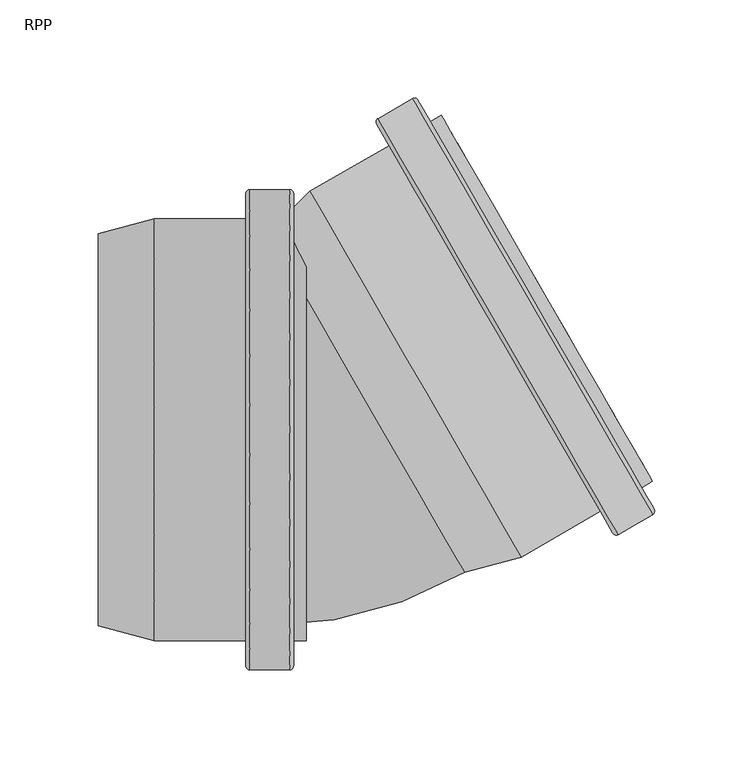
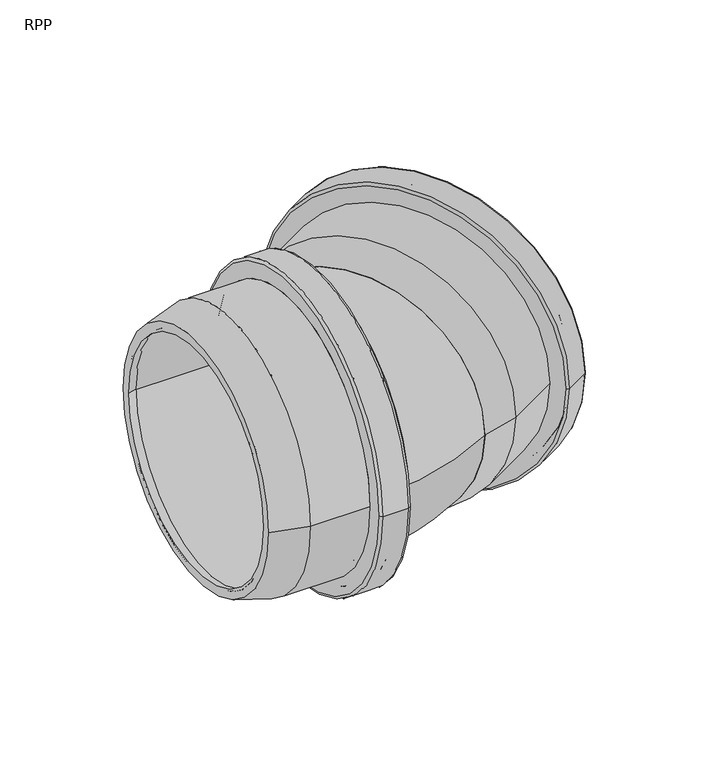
"""IFC4 building model written with IfcOpenShell, lengths in millimetres: pipe fitting geometry, RAUPIANO PLUS Bend : RPP."""

from ifc_helpers import new_model, si_unit, point, frame, origin, place, context, project, spatial, polyline, circle_curve, ellipse_curve, trimmed, source, transform, mapped, element, save
from ifc_brep_helpers import plane_surface, cylinder_surface, revolved_surface, advanced_brep


def rpp_016cef04(model_context):
    return source(origin(), model_context, "Body", "AdvancedBrep", [
        advanced_brep(
        [(-30.066716, -100.3, 0.0), (-30.066716, 100.3, 0.0), (-83.1556963, 100.3, 0.0), (-83.1556963, -100.3, 0.0), (-29.566716, -115.1, 0.0), (-29.566716, 115.1, 0.0), (-30.066716, 114.6, 0.0), (-30.066716, -114.6, 0.0), (-21.066716, -115.1, 0.0), (-21.066716, 115.1, 0.0), (-20.566716, -114.6, 0.0), (-20.566716, 114.6, 0.0), (-6.766716, -100.3, 0.0), (-6.766716, 100.3, 0.0), (-20.566716, 100.3, 0.0), (-20.566716, -100.3, 0.0), (-13.166716, -107.7, 0.0), (-13.166716, 107.7, 0.0), (-6.766716, 107.7, 0.0), (-6.766716, -107.7, 0.0), (-15.166716, -122.5, 0.0), (-15.166716, 122.5, 0.0), (-13.166716, 120.5, 0.0), (-13.166716, -120.5, 0.0), (-35.466716, -122.5, 0.0), (-35.466716, 122.5, 0.0), (-37.466716, -120.5, 0.0), (-37.466716, 120.5, 0.0), (-84.1299248, -107.7, 0.0), (-84.1299248, 107.7, 0.0), (-37.466716, 107.7, 0.0), (-37.466716, -107.7, 0.0), (-112.866716, -100.0, 0.0), (-112.866716, 100.0, 0.0), (-112.866716, 92.3389563, 0.0), (-112.866716, -92.3389563, 0.0)],
        [
            (0, 1, circle_curve(frame((-30.066716, 0.0, 0.0), z_axis=(1.0, 0.0, 0.0), x_axis=(0.0, 1.0, 0.0)), 100.3)),
            (1, 2),
            (2, 3, circle_curve(frame((-83.1556963, 0.0, 0.0), z_axis=(-1.0, 0.0, 0.0), x_axis=(0.0, 1.0, 0.0)), 100.3)),
            (3, 0),
            (4, 5, circle_curve(frame((-29.566716, 0.0, 0.0), z_axis=(1.0, 0.0, 0.0), x_axis=(0.0, 1.0, 0.0)), 115.1)),
            (5, 6, circle_curve(frame((-29.566716, 114.6, 0.0), z_axis=(0.0, 0.0, 1.0), x_axis=(0.0, -1.0, 0.0)), 0.5)),
            (6, 7, circle_curve(frame((-30.066716, 0.0, 0.0), z_axis=(-1.0, 0.0, 0.0), x_axis=(0.0, 1.0, 0.0)), 114.6)),
            (7, 4, circle_curve(frame((-29.566716, -114.6, 0.0), z_axis=(0.0, 0.0, 1.0), x_axis=(0.0, 1.0, 0.0)), 0.5)),
            (8, 9, circle_curve(frame((-21.066716, 0.0, 0.0), z_axis=(1.0, 0.0, 0.0), x_axis=(0.0, 1.0, 0.0)), 115.1)),
            (9, 5),
            (4, 8),
            (10, 11, circle_curve(frame((-20.566716, 0.0, 0.0), z_axis=(1.0, 0.0, 0.0), x_axis=(0.0, 1.0, 0.0)), 114.6)),
            (11, 9, circle_curve(frame((-21.066716, 114.6, 0.0), z_axis=(0.0, 0.0, 1.0), x_axis=(0.0, -1.0, 0.0)), 0.5)),
            (8, 10, circle_curve(frame((-21.066716, -114.6, 0.0), z_axis=(0.0, 0.0, 1.0), x_axis=(0.0, 1.0, 0.0)), 0.5)),
            (12, 13, circle_curve(frame((-6.766716, 0.0, 0.0), z_axis=(1.0, 0.0, 0.0), x_axis=(0.0, 1.0, 0.0)), 100.3)),
            (13, 14),
            (14, 15, circle_curve(frame((-20.566716, 0.0, 0.0), z_axis=(-1.0, 0.0, 0.0), x_axis=(0.0, 1.0, 0.0)), 100.3)),
            (15, 12),
            (16, 17, circle_curve(frame((-13.166716, 0.0, 0.0), z_axis=(1.0, 0.0, 0.0), x_axis=(0.0, 1.0, 0.0)), 107.7)),
            (17, 18),
            (18, 19, circle_curve(frame((-6.766716, 0.0, 0.0), z_axis=(-1.0, 0.0, 0.0), x_axis=(0.0, 1.0, 0.0)), 107.7)),
            (19, 16),
            (20, 21, circle_curve(frame((-15.166716, 0.0, 0.0), z_axis=(1.0, 0.0, 0.0), x_axis=(0.0, 1.0, 0.0)), 122.5)),
            (21, 22, circle_curve(frame((-15.166716, 120.5, 0.0), z_axis=(0.0, 0.0, -1.0), x_axis=(0.0, -1.0, 0.0)), 2.0)),
            (22, 23, circle_curve(frame((-13.166716, 0.0, 0.0), z_axis=(-1.0, 0.0, 0.0), x_axis=(0.0, 1.0, 0.0)), 120.5)),
            (23, 20, circle_curve(frame((-15.166716, -120.5, 0.0), z_axis=(0.0, 0.0, -1.0), x_axis=(0.0, 1.0, 0.0)), 2.0)),
            (24, 25, circle_curve(frame((-35.466716, 0.0, 0.0), z_axis=(1.0, 0.0, 0.0), x_axis=(0.0, 1.0, 0.0)), 122.5)),
            (25, 21),
            (20, 24),
            (26, 27, circle_curve(frame((-37.466716, 0.0, 0.0), z_axis=(1.0, 0.0, 0.0), x_axis=(0.0, 1.0, 0.0)), 120.5)),
            (27, 25, circle_curve(frame((-35.466716, 120.5, 0.0), z_axis=(0.0, 0.0, -1.0), x_axis=(0.0, -1.0, 0.0)), 2.0)),
            (24, 26, circle_curve(frame((-35.466716, -120.5, 0.0), z_axis=(0.0, 0.0, -1.0), x_axis=(0.0, 1.0, 0.0)), 2.0)),
            (28, 29, circle_curve(frame((-84.1299248, 0.0, 0.0), z_axis=(1.0, 0.0, 0.0), x_axis=(0.0, 1.0, 0.0)), 107.7)),
            (29, 30),
            (30, 31, circle_curve(frame((-37.466716, 0.0, 0.0), z_axis=(-1.0, 0.0, 0.0), x_axis=(0.0, 1.0, 0.0)), 107.7)),
            (31, 28),
            (32, 33, circle_curve(frame((-112.866716, 0.0, 0.0), z_axis=(1.0, 0.0, 0.0), x_axis=(0.0, 1.0, 0.0)), 100.0)),
            (33, 29),
            (28, 32),
            (2, 34),
            (34, 35, circle_curve(frame((-112.866716, 0.0, 0.0), z_axis=(-1.0, 0.0, 0.0), x_axis=(0.0, 1.0, 0.0)), 92.3389563)),
            (35, 3),
            (1, 0, circle_curve(frame((-30.066716, 0.0, 0.0), z_axis=(1.0, 0.0, 0.0), x_axis=(0.0, -1.0, 0.0)), 100.3)),
            (3, 2, circle_curve(frame((-83.1556963, 0.0, 0.0), z_axis=(-1.0, 0.0, 0.0), x_axis=(0.0, -1.0, 0.0)), 100.3)),
            (6, 7, circle_curve(frame((-30.066716, 0.0, 0.0), z_axis=(1.0, 0.0, 0.0), x_axis=(0.0, -1.0, 0.0)), 114.6)),
            (5, 4, circle_curve(frame((-29.566716, 0.0, 0.0), z_axis=(1.0, 0.0, 0.0), x_axis=(0.0, -1.0, 0.0)), 115.1)),
            (9, 8, circle_curve(frame((-21.066716, 0.0, 0.0), z_axis=(1.0, 0.0, 0.0), x_axis=(0.0, -1.0, 0.0)), 115.1)),
            (11, 10, circle_curve(frame((-20.566716, 0.0, 0.0), z_axis=(1.0, 0.0, 0.0), x_axis=(0.0, -1.0, 0.0)), 114.6)),
            (14, 15, circle_curve(frame((-20.566716, 0.0, 0.0), z_axis=(1.0, 0.0, 0.0), x_axis=(0.0, -1.0, 0.0)), 100.3)),
            (13, 12, circle_curve(frame((-6.766716, 0.0, 0.0), z_axis=(1.0, 0.0, 0.0), x_axis=(0.0, -1.0, 0.0)), 100.3)),
            (18, 19, circle_curve(frame((-6.766716, 0.0, 0.0), z_axis=(1.0, 0.0, 0.0), x_axis=(0.0, -1.0, 0.0)), 107.7)),
            (17, 16, circle_curve(frame((-13.166716, 0.0, 0.0), z_axis=(1.0, 0.0, 0.0), x_axis=(0.0, -1.0, 0.0)), 107.7)),
            (22, 23, circle_curve(frame((-13.166716, 0.0, 0.0), z_axis=(1.0, 0.0, 0.0), x_axis=(0.0, -1.0, 0.0)), 120.5)),
            (21, 20, circle_curve(frame((-15.166716, 0.0, 0.0), z_axis=(1.0, 0.0, 0.0), x_axis=(0.0, -1.0, 0.0)), 122.5)),
            (25, 24, circle_curve(frame((-35.466716, 0.0, 0.0), z_axis=(1.0, 0.0, 0.0), x_axis=(0.0, -1.0, 0.0)), 122.5)),
            (27, 26, circle_curve(frame((-37.466716, 0.0, 0.0), z_axis=(1.0, 0.0, 0.0), x_axis=(0.0, -1.0, 0.0)), 120.5)),
            (30, 31, circle_curve(frame((-37.466716, 0.0, 0.0), z_axis=(1.0, 0.0, 0.0), x_axis=(0.0, -1.0, 0.0)), 107.7)),
            (29, 28, circle_curve(frame((-84.1299248, 0.0, 0.0), z_axis=(1.0, 0.0, 0.0), x_axis=(0.0, -1.0, 0.0)), 107.7)),
            (33, 32, circle_curve(frame((-112.866716, 0.0, 0.0), z_axis=(1.0, 0.0, 0.0), x_axis=(0.0, -1.0, 0.0)), 100.0)),
            (34, 35, circle_curve(frame((-112.866716, 0.0, 0.0), z_axis=(1.0, 0.0, 0.0), x_axis=(0.0, -1.0, 0.0)), 92.3389563)),
        ],
        [
            revolved_surface(polyline([(-83.1556963, 100.3, 0.0), (-30.066716, 100.3, 0.0)]), (-112.866716, 0.0, 0.0), (-1.0, 0.0, 0.0)),
            revolved_surface(trimmed(ellipse_curve(frame((-29.566716, 114.6, 0.0), z_axis=(0.0, 0.0, -1.0), x_axis=(0.0, -1.0, 0.0)), 0.5, 0.5), [point((-30.066716, 114.6, 0.0))], [point((-29.566716, 115.1, 0.0))], True, "CARTESIAN"), (-112.866716, 0.0, 0.0), (-1.0, 0.0, 0.0)),
            revolved_surface(polyline([(-29.566716, 115.1, 0.0), (-21.066716, 115.1, 0.0)]), (-112.866716, 0.0, 0.0), (-1.0, 0.0, 0.0)),
            revolved_surface(trimmed(ellipse_curve(frame((-21.066716, 114.6, 0.0), z_axis=(0.0, 0.0, -1.0), x_axis=(0.0, -1.0, 0.0)), 0.5, 0.5), [point((-21.066716, 115.1, 0.0))], [point((-20.566716, 114.6, 0.0))], True, "CARTESIAN"), (-112.866716, 0.0, 0.0), (-1.0, 0.0, 0.0)),
            revolved_surface(polyline([(-20.566716, 100.3, 0.0), (-6.766716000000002, 100.3, 0.0)]), (-112.866716, 0.0, 0.0), (-1.0, 0.0, 0.0)),
            cylinder_surface(frame((-112.866716, 0.0, 0.0), z_axis=(-1.0, 0.0, 0.0), x_axis=(0.0, 1.0, 0.0)), 107.7),
            revolved_surface(trimmed(ellipse_curve(frame((-15.166716, 120.5, 0.0), z_axis=(0.0, 0.0, 1.0), x_axis=(0.0, -1.0, 0.0)), 2.0, 2.0), [point((-13.166716, 120.5, 0.0))], [point((-15.166716, 122.5, 0.0))], True, "CARTESIAN"), (-112.866716, 0.0, 0.0), (-1.0, 0.0, 0.0)),
            cylinder_surface(frame((-112.866716, 0.0, 0.0), z_axis=(-1.0, 0.0, 0.0), x_axis=(0.0, 1.0, 0.0)), 122.5),
            revolved_surface(trimmed(ellipse_curve(frame((-35.466716, 120.5, 0.0), z_axis=(0.0, 0.0, 1.0), x_axis=(0.0, -1.0, 0.0)), 2.0, 2.0), [point((-35.466716, 122.5, 0.0))], [point((-37.466716, 120.5, 0.0))], True, "CARTESIAN"), (-112.866716, 0.0, 0.0), (-1.0, 0.0, 0.0)),
            revolved_surface(polyline([(-84.1299248, 107.7, 0.0), (-112.866716, 100.0, 0.0)]), (-112.866716, 0.0, 0.0), (-1.0, 0.0, 0.0)),
            revolved_surface(polyline([(-112.866716, 92.3389563, 0.0), (-83.1556963, 100.3, 0.0)]), (-112.866716, 0.0, 0.0), (-1.0, 0.0, 0.0)),
            revolved_surface(polyline([(-83.1556963, -100.3, 0.0), (-30.066716, -100.3, 0.0)]), (-112.866716, 0.0, 0.0), (-1.0, 0.0, 0.0)),
            plane_surface(frame((-30.066716, 0.0, 0.0), z_axis=(1.0, 0.0, 0.0), x_axis=(0.0, -1.0, 0.0))),
            revolved_surface(trimmed(ellipse_curve(frame((-29.566716, -114.6, 0.0), z_axis=(0.0, 0.0, 1.0), x_axis=(0.0, 1.0, 0.0)), 0.5, 0.5), [point((-30.066716, -114.6, 0.0))], [point((-29.566716, -115.1, 0.0))], True, "CARTESIAN"), (-112.866716, 0.0, 0.0), (-1.0, 0.0, 0.0)),
            revolved_surface(polyline([(-29.566716, -115.1, 0.0), (-21.066716, -115.1, 0.0)]), (-112.866716, 0.0, 0.0), (-1.0, 0.0, 0.0)),
            revolved_surface(trimmed(ellipse_curve(frame((-21.066716, -114.6, 0.0), z_axis=(0.0, 0.0, 1.0), x_axis=(0.0, 1.0, 0.0)), 0.5, 0.5), [point((-21.066716, -115.1, 0.0))], [point((-20.566716, -114.6, 0.0))], True, "CARTESIAN"), (-112.866716, 0.0, 0.0), (-1.0, 0.0, 0.0)),
            plane_surface(frame((-20.566716, 0.0, 0.0), z_axis=(-1.0, 0.0, 0.0), x_axis=(0.0, -1.0, 0.0))),
            revolved_surface(polyline([(-20.566716, -100.3, 0.0), (-6.766716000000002, -100.3, 0.0)]), (-112.866716, 0.0, 0.0), (-1.0, 0.0, 0.0)),
            plane_surface(frame((-6.766716, 0.0, 0.0), z_axis=(1.0, 0.0, 0.0), x_axis=(0.0, -1.0, 0.0))),
            cylinder_surface(frame((-112.866716, 0.0, 0.0), z_axis=(-1.0, 0.0, 0.0), x_axis=(0.0, -1.0, 0.0)), 107.7),
            plane_surface(frame((-13.166716, 0.0, 0.0), z_axis=(1.0, 0.0, 0.0), x_axis=(0.0, -1.0, 0.0))),
            revolved_surface(trimmed(ellipse_curve(frame((-15.166716, -120.5, 0.0), z_axis=(0.0, 0.0, -1.0), x_axis=(0.0, 1.0, 0.0)), 2.0, 2.0), [point((-13.166716, -120.5, 0.0))], [point((-15.166716, -122.5, 0.0))], True, "CARTESIAN"), (-112.866716, 0.0, 0.0), (-1.0, 0.0, 0.0)),
            cylinder_surface(frame((-112.866716, 0.0, 0.0), z_axis=(-1.0, 0.0, 0.0), x_axis=(0.0, -1.0, 0.0)), 122.5),
            revolved_surface(trimmed(ellipse_curve(frame((-35.466716, -120.5, 0.0), z_axis=(0.0, 0.0, -1.0), x_axis=(0.0, 1.0, 0.0)), 2.0, 2.0), [point((-35.466716, -122.5, 0.0))], [point((-37.466716, -120.5, 0.0))], True, "CARTESIAN"), (-112.866716, 0.0, 0.0), (-1.0, 0.0, 0.0)),
            plane_surface(frame((-37.466716, 0.0, 0.0), z_axis=(-1.0, 0.0, 0.0), x_axis=(0.0, -1.0, 0.0))),
            revolved_surface(polyline([(-84.1299248, -107.7, 0.0), (-112.866716, -100.0, 0.0)]), (-112.866716, 0.0, 0.0), (-1.0, 0.0, 0.0)),
            plane_surface(frame((-112.866716, 0.0, 0.0), z_axis=(-1.0, 0.0, 0.0), x_axis=(0.0, -1.0, 0.0))),
            revolved_surface(polyline([(-112.866716, -92.3389563, 0.0), (-83.1556963, -100.3, 0.0)]), (-112.866716, 0.0, 0.0), (-1.0, 0.0, 0.0)),
        ],
        [
            (0, [[1, 2, 3, 4]]),
            (1, [[5, 6, 7, 8]]),
            (2, [[9, 10, -5, 11]]),
            (3, [[12, 13, -9, 14]]),
            (4, [[15, 16, 17, 18]]),
            (5, [[19, 20, 21, 22]]),
            (6, [[23, 24, 25, 26]]),
            (7, [[27, 28, -23, 29]]),
            (8, [[30, 31, -27, 32]]),
            (5, [[33, 34, 35, 36]]),
            (9, [[37, 38, -33, 39]]),
            (10, [[-3, 40, 41, 42]]),
            (11, [[43, -4, 44, -2]]),
            (12, [[45, -7], [-43, -1]]),
            (13, [[46, -8, -45, -6]]),
            (14, [[47, -11, -46, -10]]),
            (15, [[48, -14, -47, -13]]),
            (16, [[-48, -12], [49, -17]]),
            (17, [[50, -18, -49, -16]]),
            (18, [[51, -21], [-50, -15]]),
            (19, [[52, -22, -51, -20]]),
            (20, [[53, -25], [-52, -19]]),
            (21, [[54, -26, -53, -24]]),
            (22, [[55, -29, -54, -28]]),
            (23, [[56, -32, -55, -31]]),
            (24, [[-56, -30], [57, -35]]),
            (19, [[58, -36, -57, -34]]),
            (25, [[59, -39, -58, -38]]),
            (26, [[-59, -37], [60, -41]]),
            (27, [[-44, -42, -60, -40]]),
        ],
    ),
        advanced_brep(
        [(70.3027621, -66.0345239, 0.0), (-22.0361941, 93.9012399, 0.0), (-0.2862182, 115.6512159, 0.0), (100.0137818, -58.0734801, 0.0), (102.8700752, -64.9691824, 0.0), (-4.8299248, 121.5726896, 0.0), (-25.866716, 100.5358984, 0.0), (74.133284, -72.6691824, 0.0), (143.2815994, -41.637578, 0.0), (35.5815994, 144.904294, 0.0), (169.9939659, -43.304754, 0.0), (47.4939659, 168.87147, 0.0), (29.9136502, 158.72147, 0.0), (152.4136502, -53.454754, 0.0), (169.8685793, -26.287578, 0.0), (62.1685793, 160.254294, 0.0), (56.6260167, 157.054294, 0.0), (164.3260167, -29.487578, 0.0), (154.2174288, -26.77899, 0.0), (53.9174288, 146.945706, 0.0), (65.8685793, 153.845706, 0.0), (166.1685793, -19.87899, 0.0), (153.8232001, -44.096166, 0.0), (38.7232001, 155.262882, 0.0), (46.0844161, 159.512882, 0.0), (161.1844161, -39.846166, 0.0), (45.6901874, 142.195706, 0.0), (145.9901874, -31.52899, 0.0), (29.1815994, 155.9894192, 0.0), (149.6815994, -52.7227031, 0.0), (170.7260167, -40.5727031, 0.0), (50.2260167, 168.1394192, 0.0), (46.7674288, 159.3298693, 0.0), (161.3674288, -39.1631533, 0.0), (153.1401874, -43.9131533, 0.0), (38.5401874, 154.5798693, 0.0)],
        [
            (0, 1, circle_curve(frame((24.133284, 13.933358, 0.0), z_axis=(-0.8660254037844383, -0.5000000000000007, 0.0), x_axis=(-0.5000000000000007, 0.8660254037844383, 0.0)), 92.3389563)),
            (1, 2),
            (2, 3, circle_curve(frame((49.8637818, 28.7888679, 0.0), z_axis=(0.8660254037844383, 0.5000000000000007, 0.0), x_axis=(-0.5000000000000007, 0.8660254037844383, 0.0)), 100.3)),
            (3, 0),
            (4, 5, circle_curve(frame((49.0200752, 28.3017536, 0.0), z_axis=(-0.8660254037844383, -0.5000000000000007, 0.0), x_axis=(-0.5000000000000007, 0.8660254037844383, 0.0)), 107.7)),
            (5, 6),
            (6, 7, circle_curve(frame((24.133284, 13.933358, 0.0), z_axis=(0.8660254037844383, 0.5000000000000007, 0.0), x_axis=(-0.5000000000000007, 0.8660254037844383, 0.0)), 100.0)),
            (7, 4),
            (8, 9, circle_curve(frame((89.4315994, 51.633358, 0.0), z_axis=(-0.8660254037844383, -0.5000000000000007, 0.0), x_axis=(-0.5000000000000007, 0.8660254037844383, 0.0)), 107.7)),
            (9, 5),
            (4, 8),
            (10, 11, circle_curve(frame((108.7439659, 62.783358, 0.0), z_axis=(-0.8660254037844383, -0.5000000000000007, 0.0), x_axis=(-0.5000000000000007, 0.8660254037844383, 0.0)), 122.5)),
            (11, 12),
            (12, 13, circle_curve(frame((91.1636502, 52.633358, 0.0), z_axis=(0.8660254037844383, 0.5000000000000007, 0.0), x_axis=(-0.5000000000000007, 0.8660254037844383, 0.0)), 122.5)),
            (13, 10),
            (14, 15, circle_curve(frame((116.0185793, 66.983358, 0.0), z_axis=(-0.8660254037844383, -0.5000000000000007, 0.0), x_axis=(-0.5000000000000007, 0.8660254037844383, 0.0)), 107.7)),
            (15, 16),
            (16, 17, circle_curve(frame((110.4760167, 63.783358, 0.0), z_axis=(0.8660254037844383, 0.5000000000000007, 0.0), x_axis=(-0.5000000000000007, 0.8660254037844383, 0.0)), 107.7)),
            (17, 14),
            (18, 19, circle_curve(frame((104.0674288, 60.083358, 0.0), z_axis=(-0.8660254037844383, -0.5000000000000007, 0.0), x_axis=(-0.5000000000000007, 0.8660254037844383, 0.0)), 100.3)),
            (19, 20),
            (20, 21, circle_curve(frame((116.0185793, 66.983358, 0.0), z_axis=(0.8660254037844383, 0.5000000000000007, 0.0), x_axis=(-0.5000000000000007, 0.8660254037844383, 0.0)), 100.3)),
            (21, 18),
            (22, 23, circle_curve(frame((96.2732001, 55.583358, 0.0), z_axis=(-0.8660254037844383, -0.5000000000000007, 0.0), x_axis=(-0.5000000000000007, 0.8660254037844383, 0.0)), 115.1)),
            (23, 24),
            (24, 25, circle_curve(frame((103.6344161, 59.833358, 0.0), z_axis=(0.8660254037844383, 0.5000000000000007, 0.0), x_axis=(-0.5000000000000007, 0.8660254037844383, 0.0)), 115.1)),
            (25, 22),
            (2, 26),
            (26, 27, circle_curve(frame((95.8401874, 55.333358, 0.0), z_axis=(0.8660254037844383, 0.5000000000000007, 0.0), x_axis=(-0.5000000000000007, 0.8660254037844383, 0.0)), 100.3)),
            (27, 3),
            (1, 0, circle_curve(frame((24.133284, 13.933358, 0.0), z_axis=(-0.8660254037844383, -0.5000000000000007, 0.0), x_axis=(0.5000000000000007, -0.8660254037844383, 0.0)), 92.3389563)),
            (3, 2, circle_curve(frame((49.8637818, 28.7888679, 0.0), z_axis=(0.8660254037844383, 0.5000000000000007, 0.0), x_axis=(0.5000000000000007, -0.8660254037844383, 0.0)), 100.3)),
            (6, 7, circle_curve(frame((24.133284, 13.933358, 0.0), z_axis=(-0.8660254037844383, -0.5000000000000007, 0.0), x_axis=(0.5000000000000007, -0.8660254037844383, 0.0)), 100.0)),
            (5, 4, circle_curve(frame((49.0200752, 28.3017536, 0.0), z_axis=(-0.8660254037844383, -0.5000000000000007, 0.0), x_axis=(0.5000000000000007, -0.8660254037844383, 0.0)), 107.7)),
            (9, 8, circle_curve(frame((89.4315994, 51.633358, 0.0), z_axis=(-0.8660254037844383, -0.5000000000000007, 0.0), x_axis=(0.5000000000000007, -0.8660254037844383, 0.0)), 107.7)),
            (28, 29, circle_curve(frame((89.4315994, 51.633358, 0.0), z_axis=(-0.8660254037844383, -0.5000000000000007, 0.0), x_axis=(0.5000000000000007, -0.8660254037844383, 0.0)), 120.5)),
            (29, 28, circle_curve(frame((89.4315994, 51.633358, 0.0), z_axis=(-0.8660254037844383, -0.5000000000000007, 0.0), x_axis=(-0.5000000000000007, 0.8660254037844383, 0.0)), 120.5)),
            (11, 10, circle_curve(frame((108.7439659, 62.783358, 0.0), z_axis=(-0.8660254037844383, -0.5000000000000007, 0.0), x_axis=(0.5000000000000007, -0.8660254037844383, 0.0)), 122.5)),
            (13, 12, circle_curve(frame((91.1636502, 52.633358, 0.0), z_axis=(0.8660254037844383, 0.5000000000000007, 0.0), x_axis=(0.5000000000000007, -0.8660254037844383, 0.0)), 122.5)),
            (30, 31, circle_curve(frame((110.4760167, 63.783358, 0.0), z_axis=(0.8660254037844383, 0.5000000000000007, 0.0), x_axis=(0.5000000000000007, -0.8660254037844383, 0.0)), 120.5)),
            (31, 30, circle_curve(frame((110.4760167, 63.783358, 0.0), z_axis=(0.8660254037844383, 0.5000000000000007, 0.0), x_axis=(-0.5000000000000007, 0.8660254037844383, 0.0)), 120.5)),
            (16, 17, circle_curve(frame((110.4760167, 63.783358, 0.0), z_axis=(-0.8660254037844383, -0.5000000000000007, 0.0), x_axis=(0.5000000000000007, -0.8660254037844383, 0.0)), 107.7)),
            (15, 14, circle_curve(frame((116.0185793, 66.983358, 0.0), z_axis=(-0.8660254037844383, -0.5000000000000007, 0.0), x_axis=(0.5000000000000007, -0.8660254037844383, 0.0)), 107.7)),
            (20, 21, circle_curve(frame((116.0185793, 66.983358, 0.0), z_axis=(-0.8660254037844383, -0.5000000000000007, 0.0), x_axis=(0.5000000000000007, -0.8660254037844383, 0.0)), 100.3)),
            (19, 18, circle_curve(frame((104.0674288, 60.083358, 0.0), z_axis=(-0.8660254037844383, -0.5000000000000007, 0.0), x_axis=(0.5000000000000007, -0.8660254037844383, 0.0)), 100.3)),
            (32, 33, circle_curve(frame((104.0674288, 60.083358, 0.0), z_axis=(-0.8660254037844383, -0.5000000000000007, 0.0), x_axis=(0.5000000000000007, -0.8660254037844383, 0.0)), 114.6)),
            (33, 32, circle_curve(frame((104.0674288, 60.083358, 0.0), z_axis=(-0.8660254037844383, -0.5000000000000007, 0.0), x_axis=(-0.5000000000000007, 0.8660254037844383, 0.0)), 114.6)),
            (23, 22, circle_curve(frame((96.2732001, 55.583358, 0.0), z_axis=(-0.8660254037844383, -0.5000000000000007, 0.0), x_axis=(0.5000000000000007, -0.8660254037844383, 0.0)), 115.1)),
            (25, 24, circle_curve(frame((103.6344161, 59.833358, 0.0), z_axis=(0.8660254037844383, 0.5000000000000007, 0.0), x_axis=(0.5000000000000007, -0.8660254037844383, 0.0)), 115.1)),
            (34, 35, circle_curve(frame((95.8401874, 55.333358, 0.0), z_axis=(0.8660254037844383, 0.5000000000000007, 0.0), x_axis=(0.5000000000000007, -0.8660254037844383, 0.0)), 114.6)),
            (35, 34, circle_curve(frame((95.8401874, 55.333358, 0.0), z_axis=(0.8660254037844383, 0.5000000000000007, 0.0), x_axis=(-0.5000000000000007, 0.8660254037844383, 0.0)), 114.6)),
            (26, 27, circle_curve(frame((95.8401874, 55.333358, 0.0), z_axis=(-0.8660254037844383, -0.5000000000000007, 0.0), x_axis=(0.5000000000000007, -0.8660254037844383, 0.0)), 100.3)),
            (12, 28, circle_curve(frame((30.9136502, 156.9894192, 0.0), z_axis=(0.0, 0.0, 1.0), x_axis=(0.5000000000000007, -0.8660254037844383, 0.0)), 2.0)),
            (29, 13, circle_curve(frame((151.4136502, -51.7227031, 0.0), z_axis=(0.0, 0.0, 1.0), x_axis=(-0.5000000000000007, 0.8660254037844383, 0.0)), 2.0)),
            (31, 11, circle_curve(frame((48.4939659, 167.1394192, 0.0), z_axis=(0.0, 0.0, 1.0), x_axis=(0.5000000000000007, -0.8660254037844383, 0.0)), 2.0)),
            (10, 30, circle_curve(frame((168.9939659, -41.5727031, 0.0), z_axis=(0.0, 0.0, 1.0), x_axis=(-0.5000000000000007, 0.8660254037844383, 0.0)), 2.0)),
            (24, 32, circle_curve(frame((46.3344161, 159.0798693, 0.0), z_axis=(0.0, 0.0, -1.0), x_axis=(0.5000000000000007, -0.8660254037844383, 0.0)), 0.5)),
            (33, 25, circle_curve(frame((160.9344161, -39.4131533, 0.0), z_axis=(0.0, 0.0, -1.0), x_axis=(-0.5000000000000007, 0.8660254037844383, 0.0)), 0.5)),
            (35, 23, circle_curve(frame((38.9732001, 154.8298693, 0.0), z_axis=(0.0, 0.0, -1.0), x_axis=(0.5000000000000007, -0.8660254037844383, 0.0)), 0.5)),
            (22, 34, circle_curve(frame((153.5732001, -43.6631533, 0.0), z_axis=(0.0, 0.0, -1.0), x_axis=(-0.5000000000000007, 0.8660254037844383, 0.0)), 0.5)),
        ],
        [
            revolved_surface(polyline([(-0.2862182, 115.6512159, 0.0), (-22.0361941, 93.9012399, 0.0)]), (24.133284, 13.933358, 0.0), (0.8660254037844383, 0.5000000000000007, 0.0)),
            revolved_surface(polyline([(-25.866716, 100.5358984, 0.0), (-4.8299248, 121.5726896, 0.0)]), (24.133284, 13.933358, 0.0), (0.8660254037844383, 0.5000000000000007, 0.0)),
            cylinder_surface(frame((24.133284, 13.933358, 0.0), z_axis=(0.8660254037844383, 0.5000000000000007, 0.0), x_axis=(-0.5000000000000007, 0.8660254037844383, 0.0)), 107.7),
            cylinder_surface(frame((24.133284, 13.933358, 0.0), z_axis=(0.8660254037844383, 0.5000000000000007, 0.0), x_axis=(-0.5000000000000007, 0.8660254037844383, 0.0)), 122.5),
            revolved_surface(polyline([(65.86857931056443, 153.8457059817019, 0.0), (53.91742879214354, 146.94570601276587, 0.0)]), (24.133284, 13.933358, 0.0), (0.8660254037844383, 0.5000000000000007, 0.0)),
            revolved_surface(polyline([(46.08441610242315, 159.51288199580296, 0.0), (38.72320009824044, 155.2628819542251, 0.0)]), (24.133284, 13.933358, 0.0), (0.8660254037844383, 0.5000000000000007, 0.0)),
            revolved_surface(polyline([(45.690187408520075, 142.19570598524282, 0.0), (-0.2862181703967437, 115.65121584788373, 0.0)]), (24.133284, 13.933358, 0.0), (0.8660254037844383, 0.5000000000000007, 0.0)),
            revolved_surface(polyline([(100.0137818, -58.0734801, 0.0), (70.3027621, -66.0345239, 0.0)]), (24.133284, 13.933358, 0.0), (0.8660254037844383, 0.5000000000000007, 0.0)),
            plane_surface(frame((24.133284, 13.933358, 0.0), z_axis=(-0.8660254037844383, -0.5000000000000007, 0.0), x_axis=(0.5000000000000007, -0.8660254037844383, 0.0))),
            revolved_surface(polyline([(74.133284, -72.6691824, 0.0), (102.8700752, -64.9691824, 0.0)]), (24.133284, 13.933358, 0.0), (0.8660254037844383, 0.5000000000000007, 0.0)),
            cylinder_surface(frame((24.133284, 13.933358, 0.0), z_axis=(0.8660254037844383, 0.5000000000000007, 0.0), x_axis=(0.5000000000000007, -0.8660254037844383, 0.0)), 107.7),
            plane_surface(frame((89.4315994, 51.633358, 0.0), z_axis=(-0.8660254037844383, -0.5000000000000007, 0.0), x_axis=(0.5000000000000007, -0.8660254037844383, 0.0))),
            cylinder_surface(frame((24.133284, 13.933358, 0.0), z_axis=(0.8660254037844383, 0.5000000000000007, 0.0), x_axis=(0.5000000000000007, -0.8660254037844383, 0.0)), 122.5),
            plane_surface(frame((110.4760167, 63.783358, 0.0), z_axis=(0.8660254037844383, 0.5000000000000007, 0.0), x_axis=(0.5000000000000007, -0.8660254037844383, 0.0))),
            plane_surface(frame((116.0185793, 66.983358, 0.0), z_axis=(0.8660254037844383, 0.5000000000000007, 0.0), x_axis=(0.5000000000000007, -0.8660254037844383, 0.0))),
            revolved_surface(polyline([(166.16857931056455, -19.878990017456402, 0.0), (154.21742879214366, -26.778989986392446, 0.0)]), (24.133284, 13.933358, 0.0), (0.8660254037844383, 0.5000000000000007, 0.0)),
            plane_surface(frame((104.0674288, 60.083358, 0.0), z_axis=(-0.8660254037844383, -0.5000000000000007, 0.0), x_axis=(0.5000000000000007, -0.8660254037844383, 0.0))),
            revolved_surface(polyline([(161.1844161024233, -39.84616595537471, 0.0), (153.8232000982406, -44.096165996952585, 0.0)]), (24.133284, 13.933358, 0.0), (0.8660254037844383, 0.5000000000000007, 0.0)),
            plane_surface(frame((95.8401874, 55.333358, 0.0), z_axis=(0.8660254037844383, 0.5000000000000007, 0.0), x_axis=(0.5000000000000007, -0.8660254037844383, 0.0))),
            revolved_surface(polyline([(145.9901874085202, -31.52899001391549, 0.0), (100.01378182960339, -58.07348015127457, 0.0)]), (24.133284, 13.933358, 0.0), (0.8660254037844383, 0.5000000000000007, 0.0)),
            revolved_surface(trimmed(ellipse_curve(frame((30.9136502, 156.9894192, 0.0), z_axis=(0.0, 0.0, -1.0), x_axis=(0.5000000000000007, -0.8660254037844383, 0.0)), 2.0, 2.0), [point((29.1815994, 155.9894192, 0.0))], [point((29.9136502, 158.72147, 0.0))], True, "CARTESIAN"), (24.133284, 13.933358, 0.0), (0.8660254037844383, 0.5000000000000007, 0.0)),
            revolved_surface(trimmed(ellipse_curve(frame((48.4939659, 167.1394192, 0.0), z_axis=(0.0, 0.0, -1.0), x_axis=(0.5000000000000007, -0.8660254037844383, 0.0)), 2.0, 2.0), [point((47.4939659, 168.87147, 0.0))], [point((50.2260167, 168.1394192, 0.0))], True, "CARTESIAN"), (24.133284, 13.933358, 0.0), (0.8660254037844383, 0.5000000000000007, 0.0)),
            revolved_surface(trimmed(ellipse_curve(frame((46.3344161, 159.0798693, 0.0), z_axis=(0.0, 0.0, 1.0), x_axis=(0.5000000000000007, -0.8660254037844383, 0.0)), 0.5, 0.5), [point((46.7674288, 159.3298693, 0.0))], [point((46.0844161, 159.512882, 0.0))], True, "CARTESIAN"), (24.133284, 13.933358, 0.0), (0.8660254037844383, 0.5000000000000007, 0.0)),
            revolved_surface(trimmed(ellipse_curve(frame((38.9732001, 154.8298693, 0.0), z_axis=(0.0, 0.0, 1.0), x_axis=(0.5000000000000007, -0.8660254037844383, 0.0)), 0.5, 0.5), [point((38.7232001, 155.262882, 0.0))], [point((38.5401874, 154.5798693, 0.0))], True, "CARTESIAN"), (24.133284, 13.933358, 0.0), (0.8660254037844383, 0.5000000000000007, 0.0)),
            revolved_surface(trimmed(ellipse_curve(frame((151.4136502, -51.7227031, 0.0), z_axis=(0.0, 0.0, 1.0), x_axis=(-0.5000000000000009, 0.8660254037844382, 0.0)), 2.0, 2.0), [point((149.6815994, -52.7227031, 0.0))], [point((152.4136502, -53.454754, 0.0))], True, "CARTESIAN"), (24.133284, 13.933358, 0.0), (0.8660254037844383, 0.5000000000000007, 0.0)),
            revolved_surface(trimmed(ellipse_curve(frame((168.9939659, -41.5727031, 0.0), z_axis=(0.0, 0.0, 1.0), x_axis=(-0.5000000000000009, 0.8660254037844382, 0.0)), 2.0, 2.0), [point((169.9939659, -43.304754, 0.0))], [point((170.7260167, -40.5727031, 0.0))], True, "CARTESIAN"), (24.133284, 13.933358, 0.0), (0.8660254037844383, 0.5000000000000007, 0.0)),
            revolved_surface(trimmed(ellipse_curve(frame((160.9344161, -39.4131533, 0.0), z_axis=(0.0, 0.0, -1.0), x_axis=(-0.5000000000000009, 0.8660254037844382, 0.0)), 0.5, 0.5), [point((161.3674288, -39.1631533, 0.0))], [point((161.1844161, -39.846166, 0.0))], True, "CARTESIAN"), (24.133284, 13.933358, 0.0), (0.8660254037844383, 0.5000000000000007, 0.0)),
            revolved_surface(trimmed(ellipse_curve(frame((153.5732001, -43.6631533, 0.0), z_axis=(0.0, 0.0, -1.0), x_axis=(-0.5000000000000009, 0.8660254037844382, 0.0)), 0.5, 0.5), [point((153.8232001, -44.096166, 0.0))], [point((153.1401874, -43.9131533, 0.0))], True, "CARTESIAN"), (24.133284, 13.933358, 0.0), (0.8660254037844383, 0.5000000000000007, 0.0)),
        ],
        [
            (0, [[1, 2, 3, 4]]),
            (1, [[5, 6, 7, 8]]),
            (2, [[9, 10, -5, 11]]),
            (3, [[12, 13, 14, 15]]),
            (2, [[16, 17, 18, 19]]),
            (4, [[20, 21, 22, 23]]),
            (5, [[24, 25, 26, 27]]),
            (6, [[-3, 28, 29, 30]]),
            (7, [[31, -4, 32, -2]]),
            (8, [[33, -7], [-31, -1]]),
            (9, [[34, -8, -33, -6]]),
            (10, [[35, -11, -34, -10]]),
            (11, [[36, 37], [-35, -9]]),
            (12, [[38, -15, 39, -13]]),
            (13, [[40, 41], [42, -18]]),
            (10, [[43, -19, -42, -17]]),
            (14, [[-43, -16], [44, -22]]),
            (15, [[45, -23, -44, -21]]),
            (16, [[46, 47], [-45, -20]]),
            (17, [[48, -27, 49, -25]]),
            (18, [[50, 51], [52, -29]]),
            (19, [[-32, -30, -52, -28]]),
            (20, [[-14, 53, -37, 54]]),
            (21, [[-41, 55, -12, 56]]),
            (22, [[-26, 57, -47, 58]]),
            (23, [[-51, 59, -24, 60]]),
            (24, [[-39, -54, -36, -53]]),
            (25, [[-40, -56, -38, -55]]),
            (26, [[-49, -58, -46, -57]]),
            (27, [[-50, -60, -48, -59]]),
        ],
    ),
        advanced_brep(
        [(-27.866716, 93.8, 0.0), (-27.866716, -93.8, 0.0), (-112.866716, -93.8, 0.0), (-112.866716, 93.8, 0.0), (-92.7136417, 100.0, 0.0), (-92.7136417, -100.0, 0.0), (-27.866716, -100.0, 0.0), (-27.866716, 100.0, 0.0), (-112.866716, 94.6, 0.0), (-112.866716, -94.6, 0.0)],
        [
            (0, 1, circle_curve(frame((-27.866716, 0.0, 0.0), z_axis=(1.0, 0.0, 0.0), x_axis=(0.0, -1.0, 0.0)), 93.8)),
            (1, 2),
            (2, 3, circle_curve(frame((-112.866716, 0.0, 0.0), z_axis=(-1.0, 0.0, 0.0), x_axis=(0.0, -1.0, 0.0)), 93.8)),
            (3, 0),
            (4, 5, circle_curve(frame((-92.7136417, 0.0, 0.0), z_axis=(1.0, 0.0, 0.0), x_axis=(0.0, -1.0, 0.0)), 100.0)),
            (5, 6),
            (6, 7, circle_curve(frame((-27.866716, 0.0, 0.0), z_axis=(-1.0, 0.0, 0.0), x_axis=(0.0, -1.0, 0.0)), 100.0)),
            (7, 4),
            (8, 9, circle_curve(frame((-112.866716, 0.0, 0.0), z_axis=(1.0, 0.0, 0.0), x_axis=(0.0, -1.0, 0.0)), 94.6)),
            (9, 5),
            (4, 8),
            (1, 0, circle_curve(frame((-27.866716, 0.0, 0.0), z_axis=(1.0, 0.0, 0.0), x_axis=(0.0, 1.0, 0.0)), 93.8)),
            (3, 2, circle_curve(frame((-112.866716, 0.0, 0.0), z_axis=(-1.0, 0.0, 0.0), x_axis=(0.0, 1.0, 0.0)), 93.8)),
            (6, 7, circle_curve(frame((-27.866716, 0.0, 0.0), z_axis=(1.0, 0.0, 0.0), x_axis=(0.0, 1.0, 0.0)), 100.0)),
            (5, 4, circle_curve(frame((-92.7136417, 0.0, 0.0), z_axis=(1.0, 0.0, 0.0), x_axis=(0.0, 1.0, 0.0)), 100.0)),
            (9, 8, circle_curve(frame((-112.866716, 0.0, 0.0), z_axis=(1.0, 0.0, 0.0), x_axis=(0.0, 1.0, 0.0)), 94.6)),
        ],
        [
            revolved_surface(polyline([(-112.866716, -93.8, 0.0), (-27.866716, -93.8, 0.0)]), (-27.866716, 0.0, 0.0), (-1.0, 0.0, 0.0)),
            cylinder_surface(frame((-27.866716, 0.0, 0.0), z_axis=(-1.0, 0.0, 0.0), x_axis=(0.0, -1.0, 0.0)), 100.0),
            revolved_surface(polyline([(-92.7136417, -100.0, 0.0), (-112.866716, -94.6, 0.0)]), (-27.866716, 0.0, 0.0), (-1.0, 0.0, 0.0)),
            revolved_surface(polyline([(-112.866716, 93.8, 0.0), (-27.866716, 93.8, 0.0)]), (-27.866716, 0.0, 0.0), (-1.0, 0.0, 0.0)),
            plane_surface(frame((-27.866716, 0.0, 0.0), z_axis=(1.0, 0.0, 0.0), x_axis=(0.0, 1.0, 0.0))),
            cylinder_surface(frame((-27.866716, 0.0, 0.0), z_axis=(-1.0, 0.0, 0.0), x_axis=(0.0, 1.0, 0.0)), 100.0),
            revolved_surface(polyline([(-92.7136417, 100.0, 0.0), (-112.866716, 94.6, 0.0)]), (-27.866716, 0.0, 0.0), (-1.0, 0.0, 0.0)),
            plane_surface(frame((-112.866716, 0.0, 0.0), z_axis=(-1.0, 0.0, 0.0), x_axis=(0.0, 1.0, 0.0))),
        ],
        [
            (0, [[1, 2, 3, 4]]),
            (1, [[5, 6, 7, 8]]),
            (2, [[9, 10, -5, 11]]),
            (3, [[12, -4, 13, -2]]),
            (4, [[14, -7], [-12, -1]]),
            (5, [[15, -8, -14, -6]]),
            (6, [[16, -11, -15, -10]]),
            (7, [[-16, -9], [-13, -3]]),
        ],
    ),
        advanced_brep(
        [(-27.866716, -100.0, 0.0), (-27.866716, 100.0, 0.0), (-27.866716, -93.8, 0.0), (-27.866716, 93.8, 0.0), (74.133284, -72.6691824, 0.0), (-25.866716, 100.5358984, 0.0), (71.033284, -67.2998249, 0.0), (-22.766716, 95.1665409, 0.0)],
        [
            (0, 1, circle_curve(frame((-27.866716, 0.0, 0.0), z_axis=(-1.0, 0.0, 0.0), x_axis=(0.0, 1.0, 0.0)), 100.0)),
            (1, 0, circle_curve(frame((-27.866716, 0.0, 0.0), z_axis=(-1.0, 0.0, 0.0), x_axis=(0.0, 1.0, 0.0)), 100.0)),
            (2, 3, circle_curve(frame((-27.866716, 0.0, 0.0), z_axis=(1.0, 0.0, 0.0), x_axis=(0.0, 1.0, 0.0)), 93.8)),
            (3, 2, circle_curve(frame((-27.866716, 0.0, 0.0), z_axis=(1.0, 0.0, 0.0), x_axis=(0.0, 1.0, 0.0)), 93.8)),
            (4, 5, circle_curve(frame((24.133284, 13.933358, 0.0), z_axis=(0.8660254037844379, 0.5000000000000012, 0.0), x_axis=(-0.5000000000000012, 0.8660254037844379, 0.0)), 100.0)),
            (5, 4, circle_curve(frame((24.133284, 13.933358, 0.0), z_axis=(0.8660254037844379, 0.5000000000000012, 0.0), x_axis=(-0.5000000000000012, 0.8660254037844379, 0.0)), 100.0)),
            (6, 7, circle_curve(frame((24.133284, 13.933358, 0.0), z_axis=(-0.8660254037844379, -0.5000000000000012, 0.0), x_axis=(-0.5000000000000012, 0.8660254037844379, 0.0)), 93.8)),
            (7, 6, circle_curve(frame((24.133284, 13.933358, 0.0), z_axis=(-0.8660254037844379, -0.5000000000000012, 0.0), x_axis=(-0.5000000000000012, 0.8660254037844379, 0.0)), 93.8)),
            (7, 3, circle_curve(frame((-27.866716, 104.0, 0.0), z_axis=(0.0, 0.0, -1.0), x_axis=(0.0, -1.0, 0.0)), 10.2)),
            (2, 6, circle_curve(frame((-27.866716, 104.0, 0.0), z_axis=(0.0, 0.0, 1.0), x_axis=(0.0, -1.0, 0.0)), 197.8)),
            (5, 1, circle_curve(frame((-27.866716, 104.0, 0.0), z_axis=(0.0, 0.0, -1.0), x_axis=(0.0, -1.0, 0.0)), 4.0)),
            (0, 4, circle_curve(frame((-27.866716, 104.0, 0.0), z_axis=(0.0, 0.0, 1.0), x_axis=(0.0, -1.0, 0.0)), 204.0)),
        ],
        [
            plane_surface(frame((-27.866716, 0.0, 0.0), z_axis=(-1.0, 0.0, 0.0), x_axis=(0.0, 0.0, 1.0))),
            plane_surface(frame((24.133284, 13.933358, 0.0), z_axis=(0.866025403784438, 0.5000000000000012, 0.0), x_axis=(0.0, 0.0, 1.0))),
            revolved_surface(trimmed(ellipse_curve(frame((-27.866716, 0.0, 0.0), z_axis=(1.0, 0.0, 0.0), x_axis=(0.0, 1.0, 0.0)), 93.8, 93.8), [point((-27.866716, -93.8, 0.0))], [point((-27.866716, 93.8, 0.0))], True, "CARTESIAN"), (-27.866716, 104.0, 0.0), (0.0, 0.0, 1.0)),
            revolved_surface(trimmed(ellipse_curve(frame((-27.866716, 0.0, 0.0), z_axis=(1.0, 0.0, 0.0), x_axis=(0.0, 1.0, 0.0)), 93.8, 93.8), [point((-27.866716, 93.8, 0.0))], [point((-27.866716, -93.8, 0.0))], True, "CARTESIAN"), (-27.866716, 104.0, 0.0), (0.0, 0.0, 1.0)),
            revolved_surface(trimmed(ellipse_curve(frame((-27.866716, 0.0, 0.0), z_axis=(-1.0, 0.0, 0.0), x_axis=(0.0, 1.0, 0.0)), 100.0, 100.0), [point((-27.866716, -100.0, 0.0))], [point((-27.866716, 100.0, 0.0))], True, "CARTESIAN"), (-27.866716, 104.0, 0.0), (0.0, 0.0, 1.0)),
            revolved_surface(trimmed(ellipse_curve(frame((-27.866716, 0.0, 0.0), z_axis=(-1.0, 0.0, 0.0), x_axis=(0.0, 1.0, 0.0)), 100.0, 100.0), [point((-27.866716, 100.0, 0.0))], [point((-27.866716, -100.0, 0.0))], True, "CARTESIAN"), (-27.866716, 104.0, 0.0), (0.0, 0.0, 1.0)),
        ],
        [
            (0, [[1, 2], [3, 4]]),
            (1, [[5, 6], [7, 8]]),
            (2, [[9, -3, 10, -8]]),
            (3, [[-10, -4, -9, -7]]),
            (4, [[11, -1, 12, -6]]),
            (5, [[-12, -2, -11, -5]]),
        ],
    ),
    ])


if __name__ == "__main__":
    model = new_model("IFC4")
    model_context = context("Model", 3, world=origin())
    ifc_project = project(units=[si_unit("LENGTHUNIT", "METRE", prefix="MILLI")], contexts=[model_context])
    site = spatial("IfcSite", under=ifc_project)
    building = spatial("IfcBuilding", under=site)
    placement = place(None, origin())
    rpp_shape = rpp_016cef04(model_context)
    element("IfcPipeFitting", 1, ObjectType="RAUPIANO PLUS Bend : RPP", at=placement, inside=building, context=model_context, shape_type="MappedRepresentation", body=[
        mapped(rpp_shape, transform((0.0, 0.0, 0.0), x_axis=(1.0, 0.0, 0.0), y_axis=(0.0, 1.0, 0.0), z_axis=(0.0, 0.0, 1.0))),
    ])
    save(model, "model.ifc")
